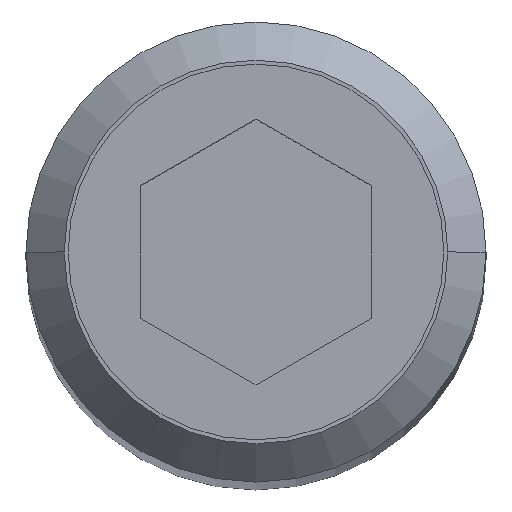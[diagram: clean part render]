
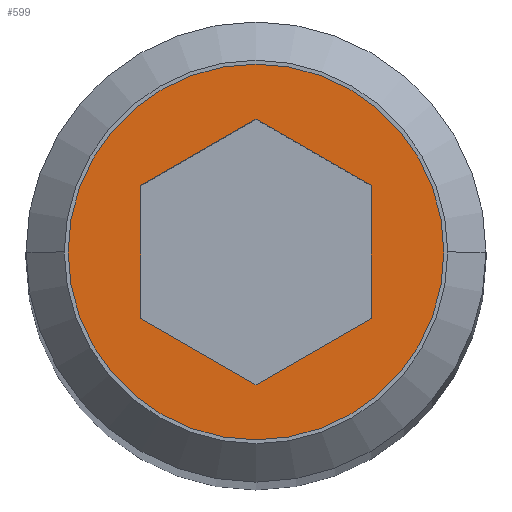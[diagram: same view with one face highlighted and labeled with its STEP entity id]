
A CAD part, top view. The second image highlights one B-rep face of the part: STEP entity #599.
In plain terms, the highlighted planar face has unit normal (0, 0, 1).
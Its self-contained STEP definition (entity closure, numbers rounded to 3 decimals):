
#15 = EDGE_CURVE ( 'NONE', #718, #177, #105, .T. ) ;
#21 = VERTEX_POINT ( 'NONE', #242 ) ;
#96 = DIRECTION ( 'NONE',  ( 0.866, 0.5, 0. ) ) ;
#105 = LINE ( 'NONE', #613, #114 ) ;
#114 = VECTOR ( 'NONE', #755, 1000. ) ;
#116 = CARTESIAN_POINT ( 'NONE',  ( -1.5, 0.866, 0. ) ) ;
#121 = VECTOR ( 'NONE', #275, 1000. ) ;
#127 = CARTESIAN_POINT ( 'NONE',  ( -2.45, 0., 0. ) ) ;
#141 = CARTESIAN_POINT ( 'NONE',  ( 1.5, -0.866, 0. ) ) ;
#170 = LINE ( 'NONE', #667, #206 ) ;
#177 = VERTEX_POINT ( 'NONE', #116 ) ;
#190 = ORIENTED_EDGE ( 'NONE', *, *, #378, .F. ) ;
#198 = CARTESIAN_POINT ( 'NONE',  ( 0.75, -1.299, 0. ) ) ;
#206 = VECTOR ( 'NONE', #445, 1000. ) ;
#207 = PLANE ( 'NONE',  #669 ) ;
#235 = DIRECTION ( 'NONE',  ( -1., 0., 0. ) ) ;
#242 = CARTESIAN_POINT ( 'NONE',  ( 0., -1.732, 0. ) ) ;
#252 = AXIS2_PLACEMENT_3D ( 'NONE', #449, #385, #235 ) ;
#265 = EDGE_CURVE ( 'NONE', #21, #535, #319, .T. ) ;
#272 = CARTESIAN_POINT ( 'NONE',  ( 1.5, 0.866, 0. ) ) ;
#275 = DIRECTION ( 'NONE',  ( 0., 1., 0. ) ) ;
#276 = EDGE_CURVE ( 'NONE', #702, #604, #306, .T. ) ;
#306 = CIRCLE ( 'NONE', #380, 2.45 ) ;
#319 = LINE ( 'NONE', #198, #540 ) ;
#346 = CARTESIAN_POINT ( 'NONE',  ( 1.5, 0., 0. ) ) ;
#357 = EDGE_CURVE ( 'NONE', #633, #21, #754, .T. ) ;
#378 = EDGE_CURVE ( 'NONE', #535, #386, #686, .T. ) ;
#380 = AXIS2_PLACEMENT_3D ( 'NONE', #849, #826, #824 ) ;
#385 = DIRECTION ( 'NONE',  ( 0., 0., -1. ) ) ;
#386 = VERTEX_POINT ( 'NONE', #272 ) ;
#407 = ORIENTED_EDGE ( 'NONE', *, *, #907, .F. ) ;
#445 = DIRECTION ( 'NONE',  ( 0., -1., 0. ) ) ;
#449 = CARTESIAN_POINT ( 'NONE',  ( 0., 0., 0. ) ) ;
#452 = FACE_OUTER_BOUND ( 'NONE', #651, .T. ) ;
#474 = DIRECTION ( 'NONE',  ( -0.866, 0.5, 0. ) ) ;
#501 = DIRECTION ( 'NONE',  ( -1., 0., 0. ) ) ;
#502 = ORIENTED_EDGE ( 'NONE', *, *, #265, .F. ) ;
#506 = ORIENTED_EDGE ( 'NONE', *, *, #671, .F. ) ;
#507 = DIRECTION ( 'NONE',  ( 0., 0., -1. ) ) ;
#526 = ORIENTED_EDGE ( 'NONE', *, *, #15, .F. ) ;
#533 = ORIENTED_EDGE ( 'NONE', *, *, #276, .F. ) ;
#535 = VERTEX_POINT ( 'NONE', #141 ) ;
#540 = VECTOR ( 'NONE', #96, 1000. ) ;
#553 = VECTOR ( 'NONE', #566, 1000. ) ;
#566 = DIRECTION ( 'NONE',  ( 0.866, -0.5, 0. ) ) ;
#574 = CARTESIAN_POINT ( 'NONE',  ( 0., 0., 0. ) ) ;
#599 = ADVANCED_FACE ( 'NONE', ( #452, #681 ), #207, .F. ) ;
#604 = VERTEX_POINT ( 'NONE', #127 ) ;
#613 = CARTESIAN_POINT ( 'NONE',  ( -0.75, 1.299, 0. ) ) ;
#633 = VERTEX_POINT ( 'NONE', #758 ) ;
#636 = CARTESIAN_POINT ( 'NONE',  ( -0.75, -1.299, 0. ) ) ;
#651 = EDGE_LOOP ( 'NONE', ( #722, #533 ) ) ;
#660 = EDGE_LOOP ( 'NONE', ( #526, #506, #190, #502, #692, #407 ) ) ;
#667 = CARTESIAN_POINT ( 'NONE',  ( -1.5, 0., 0. ) ) ;
#669 = AXIS2_PLACEMENT_3D ( 'NONE', #574, #507, #501 ) ;
#671 = EDGE_CURVE ( 'NONE', #386, #718, #879, .T. ) ;
#673 = CARTESIAN_POINT ( 'NONE',  ( 2.45, 0., 0. ) ) ;
#681 = FACE_BOUND ( 'NONE', #660, .T. ) ;
#686 = LINE ( 'NONE', #346, #121 ) ;
#692 = ORIENTED_EDGE ( 'NONE', *, *, #357, .F. ) ;
#702 = VERTEX_POINT ( 'NONE', #673 ) ;
#718 = VERTEX_POINT ( 'NONE', #881 ) ;
#722 = ORIENTED_EDGE ( 'NONE', *, *, #840, .F. ) ;
#754 = LINE ( 'NONE', #636, #553 ) ;
#755 = DIRECTION ( 'NONE',  ( -0.866, -0.5, 0. ) ) ;
#758 = CARTESIAN_POINT ( 'NONE',  ( -1.5, -0.866, 0. ) ) ;
#824 = DIRECTION ( 'NONE',  ( -1., 0., 0. ) ) ;
#826 = DIRECTION ( 'NONE',  ( 0., 0., -1. ) ) ;
#834 = VECTOR ( 'NONE', #474, 1000. ) ;
#840 = EDGE_CURVE ( 'NONE', #604, #702, #930, .T. ) ;
#849 = CARTESIAN_POINT ( 'NONE',  ( 0., 0., 0. ) ) ;
#879 = LINE ( 'NONE', #912, #834 ) ;
#881 = CARTESIAN_POINT ( 'NONE',  ( 0., 1.732, 0. ) ) ;
#907 = EDGE_CURVE ( 'NONE', #177, #633, #170, .T. ) ;
#912 = CARTESIAN_POINT ( 'NONE',  ( 0.75, 1.299, 0. ) ) ;
#930 = CIRCLE ( 'NONE', #252, 2.45 ) ;
